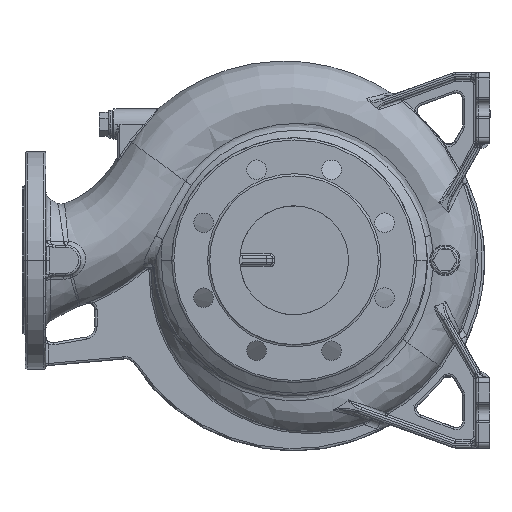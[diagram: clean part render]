
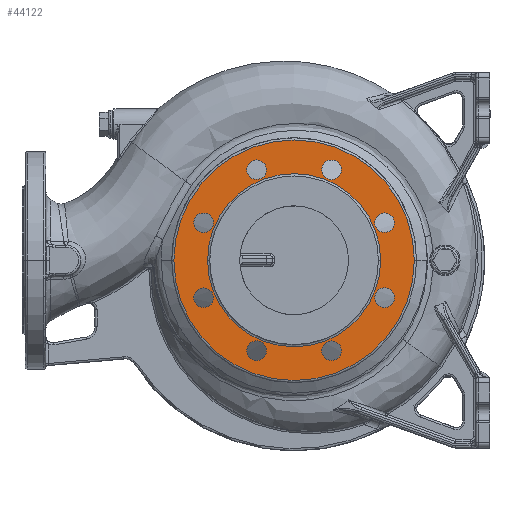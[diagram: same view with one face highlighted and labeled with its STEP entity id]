
A CAD part, front view. The second image highlights one B-rep face of the part: STEP entity #44122.
In plain terms, the highlighted planar face has unit normal (0, -1, 0) as drawn and (0, 0, 1) by its records, which use the part's own axes.
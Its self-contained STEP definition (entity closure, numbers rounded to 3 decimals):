
#27616=CARTESIAN_POINT('',(0.,0.,122.));
#27617=DIRECTION('',(0.,0.,-1.));
#27618=DIRECTION('',(0.,-1.,0.));
#27619=AXIS2_PLACEMENT_3D('',#27616,#27617,#27618);
#27624=CARTESIAN_POINT('',(0.,0.,122.));
#27625=DIRECTION('',(0.,0.,-1.));
#27626=DIRECTION('',(0.,1.,0.));
#27627=AXIS2_PLACEMENT_3D('',#27624,#27625,#27626);
#27632=CARTESIAN_POINT('',(0.,0.,122.));
#27633=DIRECTION('',(0.,0.,1.));
#27634=DIRECTION('',(0.,1.,0.));
#27635=AXIS2_PLACEMENT_3D('',#27632,#27633,#27634);
#27640=CARTESIAN_POINT('',(0.,0.,122.));
#27641=DIRECTION('',(0.,0.,1.));
#27642=DIRECTION('',(0.,-1.,0.));
#27643=AXIS2_PLACEMENT_3D('',#27640,#27641,#27642);
#27648=CARTESIAN_POINT('',(-34.442,83.149,122.));
#27649=DIRECTION('',(0.,0.,1.));
#27650=DIRECTION('',(1.,0.,0.));
#27651=AXIS2_PLACEMENT_3D('',#27648,#27649,#27650);
#27656=CARTESIAN_POINT('',(-34.442,83.149,122.));
#27657=DIRECTION('',(0.,0.,1.));
#27658=DIRECTION('',(-1.,0.,0.));
#27659=AXIS2_PLACEMENT_3D('',#27656,#27657,#27658);
#27664=CARTESIAN_POINT('',(-83.149,34.442,122.));
#27665=DIRECTION('',(0.,0.,1.));
#27666=DIRECTION('',(0.707,0.707,0.));
#27667=AXIS2_PLACEMENT_3D('',#27664,#27665,#27666);
#27672=CARTESIAN_POINT('',(-83.149,34.442,122.));
#27673=DIRECTION('',(0.,0.,1.));
#27674=DIRECTION('',(-0.707,-0.707,0.));
#27675=AXIS2_PLACEMENT_3D('',#27672,#27673,#27674);
#27680=CARTESIAN_POINT('',(-83.149,-34.442,122.));
#27681=DIRECTION('',(0.,0.,1.));
#27682=DIRECTION('',(0.,1.,0.));
#27683=AXIS2_PLACEMENT_3D('',#27680,#27681,#27682);
#27688=CARTESIAN_POINT('',(-83.149,-34.442,122.));
#27689=DIRECTION('',(0.,0.,1.));
#27690=DIRECTION('',(0.,-1.,0.));
#27691=AXIS2_PLACEMENT_3D('',#27688,#27689,#27690);
#27696=CARTESIAN_POINT('',(-34.442,-83.149,122.));
#27697=DIRECTION('',(0.,0.,1.));
#27698=DIRECTION('',(-0.707,0.707,0.));
#27699=AXIS2_PLACEMENT_3D('',#27696,#27697,#27698);
#27704=CARTESIAN_POINT('',(-34.442,-83.149,122.));
#27705=DIRECTION('',(0.,0.,1.));
#27706=DIRECTION('',(0.707,-0.707,0.));
#27707=AXIS2_PLACEMENT_3D('',#27704,#27705,#27706);
#27712=CARTESIAN_POINT('',(34.442,-83.149,122.));
#27713=DIRECTION('',(0.,0.,1.));
#27714=DIRECTION('',(-1.,0.,0.));
#27715=AXIS2_PLACEMENT_3D('',#27712,#27713,#27714);
#27720=CARTESIAN_POINT('',(34.442,-83.149,122.));
#27721=DIRECTION('',(0.,0.,1.));
#27722=DIRECTION('',(1.,0.,0.));
#27723=AXIS2_PLACEMENT_3D('',#27720,#27721,#27722);
#27728=CARTESIAN_POINT('',(83.149,-34.442,122.));
#27729=DIRECTION('',(0.,0.,1.));
#27730=DIRECTION('',(-0.707,-0.707,0.));
#27731=AXIS2_PLACEMENT_3D('',#27728,#27729,#27730);
#27736=CARTESIAN_POINT('',(83.149,-34.442,122.));
#27737=DIRECTION('',(0.,0.,1.));
#27738=DIRECTION('',(0.707,0.707,0.));
#27739=AXIS2_PLACEMENT_3D('',#27736,#27737,#27738);
#27744=CARTESIAN_POINT('',(83.149,34.442,122.));
#27745=DIRECTION('',(0.,0.,1.));
#27746=DIRECTION('',(0.,-1.,0.));
#27747=AXIS2_PLACEMENT_3D('',#27744,#27745,#27746);
#27752=CARTESIAN_POINT('',(83.149,34.442,122.));
#27753=DIRECTION('',(0.,0.,1.));
#27754=DIRECTION('',(0.,1.,0.));
#27755=AXIS2_PLACEMENT_3D('',#27752,#27753,#27754);
#27760=CARTESIAN_POINT('',(34.442,83.149,122.));
#27761=DIRECTION('',(0.,0.,1.));
#27762=DIRECTION('',(0.707,-0.707,0.));
#27763=AXIS2_PLACEMENT_3D('',#27760,#27761,#27762);
#27768=CARTESIAN_POINT('',(34.442,83.149,122.));
#27769=DIRECTION('',(0.,0.,1.));
#27770=DIRECTION('',(-0.707,0.707,0.));
#27771=AXIS2_PLACEMENT_3D('',#27768,#27769,#27770);
#38467=CARTESIAN_POINT('',(0.,-79.5,122.));
#38468=CARTESIAN_POINT('',(0.,79.5,122.));
#38469=VERTEX_POINT('',#38467);
#38470=VERTEX_POINT('',#38468);
#38471=CARTESIAN_POINT('',(0.,110.5,122.));
#38472=CARTESIAN_POINT('',(0.,-110.5,122.));
#38473=VERTEX_POINT('',#38471);
#38474=VERTEX_POINT('',#38472);
#38539=CARTESIAN_POINT('',(-25.442,83.149,122.));
#38540=CARTESIAN_POINT('',(-43.442,83.149,122.));
#38541=VERTEX_POINT('',#38539);
#38542=VERTEX_POINT('',#38540);
#38547=CARTESIAN_POINT('',(-76.785,40.805,122.));
#38548=CARTESIAN_POINT('',(-89.513,28.078,122.));
#38549=VERTEX_POINT('',#38547);
#38550=VERTEX_POINT('',#38548);
#38555=CARTESIAN_POINT('',(-83.149,-25.442,122.));
#38556=CARTESIAN_POINT('',(-83.149,-43.442,122.));
#38557=VERTEX_POINT('',#38555);
#38558=VERTEX_POINT('',#38556);
#38563=CARTESIAN_POINT('',(-40.805,-76.785,122.));
#38564=CARTESIAN_POINT('',(-28.078,-89.513,122.));
#38565=VERTEX_POINT('',#38563);
#38566=VERTEX_POINT('',#38564);
#38571=CARTESIAN_POINT('',(25.442,-83.149,122.));
#38572=CARTESIAN_POINT('',(43.442,-83.149,122.));
#38573=VERTEX_POINT('',#38571);
#38574=VERTEX_POINT('',#38572);
#38579=CARTESIAN_POINT('',(76.785,-40.805,122.));
#38580=CARTESIAN_POINT('',(89.513,-28.078,122.));
#38581=VERTEX_POINT('',#38579);
#38582=VERTEX_POINT('',#38580);
#38587=CARTESIAN_POINT('',(83.149,25.442,122.));
#38588=CARTESIAN_POINT('',(83.149,43.442,122.));
#38589=VERTEX_POINT('',#38587);
#38590=VERTEX_POINT('',#38588);
#38595=CARTESIAN_POINT('',(40.805,76.785,122.));
#38596=CARTESIAN_POINT('',(28.078,89.513,122.));
#38597=VERTEX_POINT('',#38595);
#38598=VERTEX_POINT('',#38596);
#44058=CARTESIAN_POINT('',(0.,0.,122.));
#44059=DIRECTION('',(0.,0.,-1.));
#44060=DIRECTION('',(0.,-1.,0.));
#44061=AXIS2_PLACEMENT_3D('',#44058,#44059,#44060);
#44062=PLANE('',#44061);
#44064=ORIENTED_EDGE('',*,*,#44063,.F.);
#44066=ORIENTED_EDGE('',*,*,#44065,.F.);
#44067=EDGE_LOOP('',(#44064,#44066));
#44068=FACE_OUTER_BOUND('',#44067,.F.);
#44070=ORIENTED_EDGE('',*,*,#44069,.F.);
#44072=ORIENTED_EDGE('',*,*,#44071,.F.);
#44073=EDGE_LOOP('',(#44070,#44072));
#44074=FACE_BOUND('',#44073,.F.);
#44075=ORIENTED_EDGE('',*,*,#44048,.T.);
#44077=ORIENTED_EDGE('',*,*,#44076,.T.);
#44078=EDGE_LOOP('',(#44075,#44077));
#44079=FACE_BOUND('',#44078,.F.);
#44081=ORIENTED_EDGE('',*,*,#44080,.T.);
#44083=ORIENTED_EDGE('',*,*,#44082,.T.);
#44084=EDGE_LOOP('',(#44081,#44083));
#44085=FACE_BOUND('',#44084,.F.);
#44087=ORIENTED_EDGE('',*,*,#44086,.T.);
#44089=ORIENTED_EDGE('',*,*,#44088,.T.);
#44090=EDGE_LOOP('',(#44087,#44089));
#44091=FACE_BOUND('',#44090,.F.);
#44093=ORIENTED_EDGE('',*,*,#44092,.T.);
#44095=ORIENTED_EDGE('',*,*,#44094,.T.);
#44096=EDGE_LOOP('',(#44093,#44095));
#44097=FACE_BOUND('',#44096,.F.);
#44099=ORIENTED_EDGE('',*,*,#44098,.T.);
#44101=ORIENTED_EDGE('',*,*,#44100,.T.);
#44102=EDGE_LOOP('',(#44099,#44101));
#44103=FACE_BOUND('',#44102,.F.);
#44105=ORIENTED_EDGE('',*,*,#44104,.T.);
#44107=ORIENTED_EDGE('',*,*,#44106,.T.);
#44108=EDGE_LOOP('',(#44105,#44107));
#44109=FACE_BOUND('',#44108,.F.);
#44111=ORIENTED_EDGE('',*,*,#44110,.T.);
#44113=ORIENTED_EDGE('',*,*,#44112,.T.);
#44114=EDGE_LOOP('',(#44111,#44113));
#44115=FACE_BOUND('',#44114,.F.);
#44117=ORIENTED_EDGE('',*,*,#44116,.T.);
#44119=ORIENTED_EDGE('',*,*,#44118,.T.);
#44120=EDGE_LOOP('',(#44117,#44119));
#44121=FACE_BOUND('',#44120,.F.);
#27620=CIRCLE('',#27619,79.5);
#27628=CIRCLE('',#27627,79.5);
#27636=CIRCLE('',#27635,110.5);
#27644=CIRCLE('',#27643,110.5);
#27652=CIRCLE('',#27651,9.);
#27660=CIRCLE('',#27659,9.);
#27668=CIRCLE('',#27667,9.);
#27676=CIRCLE('',#27675,9.);
#27684=CIRCLE('',#27683,9.);
#27692=CIRCLE('',#27691,9.);
#27700=CIRCLE('',#27699,9.);
#27708=CIRCLE('',#27707,9.);
#27716=CIRCLE('',#27715,9.);
#27724=CIRCLE('',#27723,9.);
#27732=CIRCLE('',#27731,9.);
#27740=CIRCLE('',#27739,9.);
#27748=CIRCLE('',#27747,9.);
#27756=CIRCLE('',#27755,9.);
#27764=CIRCLE('',#27763,9.);
#27772=CIRCLE('',#27771,9.);
#44048=EDGE_CURVE('',#38541,#38542,#27652,.T.);
#44063=EDGE_CURVE('',#38473,#38474,#27636,.T.);
#44065=EDGE_CURVE('',#38474,#38473,#27644,.T.);
#44069=EDGE_CURVE('',#38469,#38470,#27620,.T.);
#44071=EDGE_CURVE('',#38470,#38469,#27628,.T.);
#44076=EDGE_CURVE('',#38542,#38541,#27660,.T.);
#44080=EDGE_CURVE('',#38549,#38550,#27668,.T.);
#44082=EDGE_CURVE('',#38550,#38549,#27676,.T.);
#44086=EDGE_CURVE('',#38557,#38558,#27684,.T.);
#44088=EDGE_CURVE('',#38558,#38557,#27692,.T.);
#44092=EDGE_CURVE('',#38565,#38566,#27700,.T.);
#44094=EDGE_CURVE('',#38566,#38565,#27708,.T.);
#44098=EDGE_CURVE('',#38573,#38574,#27716,.T.);
#44100=EDGE_CURVE('',#38574,#38573,#27724,.T.);
#44104=EDGE_CURVE('',#38581,#38582,#27732,.T.);
#44106=EDGE_CURVE('',#38582,#38581,#27740,.T.);
#44110=EDGE_CURVE('',#38589,#38590,#27748,.T.);
#44112=EDGE_CURVE('',#38590,#38589,#27756,.T.);
#44116=EDGE_CURVE('',#38597,#38598,#27764,.T.);
#44118=EDGE_CURVE('',#38598,#38597,#27772,.T.);
#44122=ADVANCED_FACE('',(#44068,#44074,#44079,#44085,#44091,#44097,#44103,
#44109,#44115,#44121),#44062,.F.);
